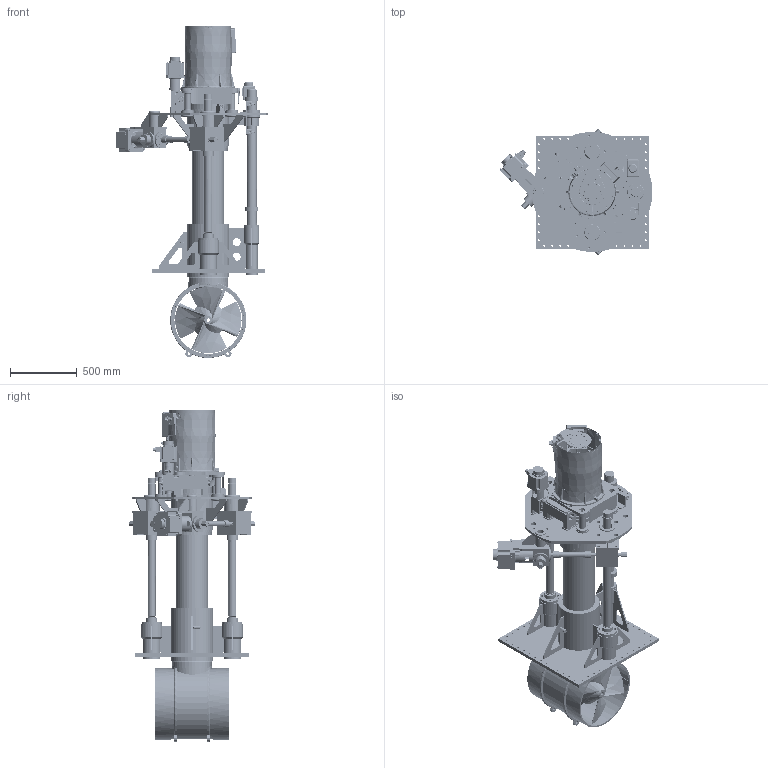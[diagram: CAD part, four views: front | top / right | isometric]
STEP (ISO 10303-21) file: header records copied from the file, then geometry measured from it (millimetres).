
FILE_DESCRIPTION(/* description */ (''),/* implementation_level */ '2;1');
FILE_NAME(/* name */ 'Q:\THRUSTERS\THRUSTER SALES & SUPPORT DOCS\THRUSTER Sales\E-V-R\E-0500-V-R\E-0500-V-R-RETRACTED.stp',/* time_stamp */ '2021-01-28T16:39:53+00:00',/* author */ ('Barney.Webborn'),/* organization */ (''),/* preprocessor_version */ 'ST-DEVELOPER v17.2',/* originating_system */ 'Autodesk Inventor 2019',/* authorisation */ '');
FILE_SCHEMA (('AUTOMOTIVE_DESIGN { 1 0 10303 214 3 1 1 }'));
Length unit declared in the file: millimetre
Products named in the file (1): E-0500-V-R_Shrinkwrap_1
Bounding box: 1144.87 x 946.36 x 2489.01 mm (x, y, z)
Volume: 193664871.1 mm3; surface area: 14310032.2 mm2
Topology: 7 solids, 7 shells, 10603 faces, 29220 edges, 19035 vertices
Faces by surface type: plane 5649, cylinder 2570, bspline 1010, cone 859, torus 413, sphere 102
Full cylindrical faces by diameter (mm): 3 x6, 4 x8, 4.95 x8, 5 x3, 5.5 x12, 7 x23, 7.2 x2, 7.323 x6, 8 x41, 8.5 x19, 9 x30, 9.43 x19, 9.8 x1, 10 x1, 10.106 x2, 10.5 x2, 11 x2, 11.7 x3, 12 x1, 12.4 x4, 12.5 x8, 13 x73, 13.44 x1, 13.5 x4, 13.9 x2, 14 x3, 14.287 x1, 14.3 x1, 15 x16, 15.25 x7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
Entity records: 389934 total; most frequent: CARTESIAN_POINT 113101, ORIENTED_EDGE 58126, DIRECTION 52369, EDGE_CURVE 29063, VERTEX_POINT 19035, AXIS2_PLACEMENT_3D 18012, LINE 16345, VECTOR 16345
